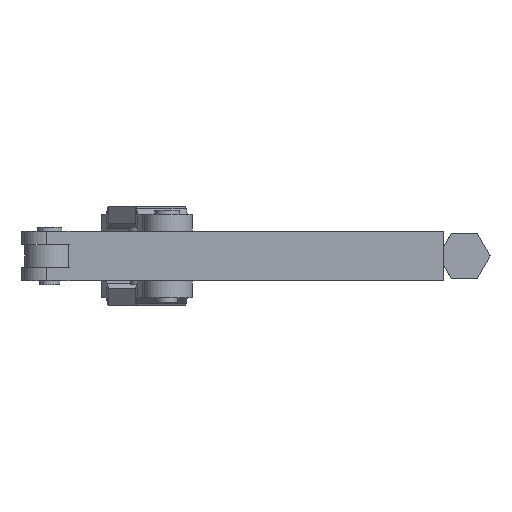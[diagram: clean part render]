
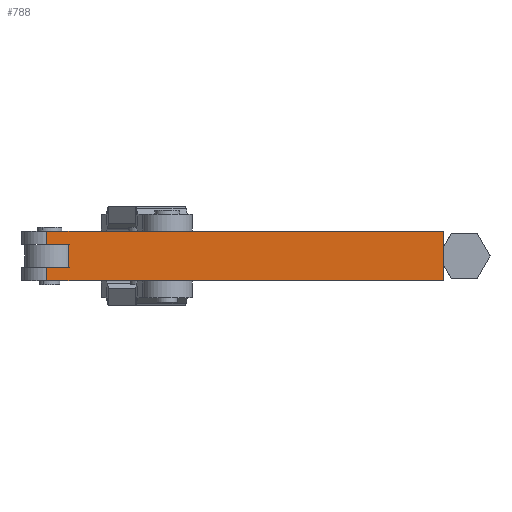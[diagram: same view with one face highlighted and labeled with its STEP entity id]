
A CAD part, front view. The second image highlights one B-rep face of the part: STEP entity #788.
In plain terms, the highlighted planar face has unit normal (0, -1, 0).
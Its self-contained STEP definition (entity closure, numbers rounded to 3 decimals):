
#386 = CARTESIAN_POINT ( 'NONE',  ( -9.525, -9.525, 9.525 ) ) ;
#390 = FACE_OUTER_BOUND ( 'NONE', #3882, .T. ) ;
#391 = PLANE ( 'NONE',  #5242 ) ;
#393 = DIRECTION ( 'NONE',  ( 0., 1., 0. ) ) ;
#394 = DIRECTION ( 'NONE',  ( -1., 0., 0. ) ) ;
#614 = LINE ( 'NONE', #625, #5062 ) ;
#615 = LINE ( 'NONE', #622, #4991 ) ;
#620 = LINE ( 'NONE', #628, #5095 ) ;
#622 = CARTESIAN_POINT ( 'NONE',  ( -17.7, -9.525, -4.5 ) ) ;
#623 = LINE ( 'NONE', #633, #5018 ) ;
#624 = DIRECTION ( 'NONE',  ( 1., 0., 0. ) ) ;
#625 = CARTESIAN_POINT ( 'NONE',  ( -17.7, -9.525, -4.5 ) ) ;
#626 = LINE ( 'NONE', #635, #5022 ) ;
#627 = DIRECTION ( 'NONE',  ( 0., 0., 1. ) ) ;
#628 = CARTESIAN_POINT ( 'NONE',  ( -17.7, -9.525, 4.5 ) ) ;
#629 = DIRECTION ( 'NONE',  ( 1., 0., 0. ) ) ;
#630 = LINE ( 'NONE', #631, #5034 ) ;
#631 = CARTESIAN_POINT ( 'NONE',  ( -9.525, -9.525, 9.525 ) ) ;
#632 = DIRECTION ( 'NONE',  ( 0., 0., -1. ) ) ;
#633 = CARTESIAN_POINT ( 'NONE',  ( -9.525, -9.525, 9.525 ) ) ;
#634 = DIRECTION ( 'NONE',  ( 1., 0., 0. ) ) ;
#635 = CARTESIAN_POINT ( 'NONE',  ( -161., -9.525, 9.525 ) ) ;
#636 = DIRECTION ( 'NONE',  ( 0., 0., -1. ) ) ;
#637 = LINE ( 'NONE', #638, #5038 ) ;
#638 = CARTESIAN_POINT ( 'NONE',  ( -9.525, -9.525, -9.525 ) ) ;
#639 = DIRECTION ( 'NONE',  ( 1., 0., 0. ) ) ;
#640 = LINE ( 'NONE', #641, #5096 ) ;
#641 = CARTESIAN_POINT ( 'NONE',  ( -9.525, -9.525, 9.525 ) ) ;
#642 = DIRECTION ( 'NONE',  ( 0., 0., -1. ) ) ;
#788 = ADVANCED_FACE ( 'NONE', ( #390 ), #391, .F. ) ;
#845 = EDGE_CURVE ( 'NONE', #4151, #4144, #615, .T. ) ;
#846 = EDGE_CURVE ( 'NONE', #4151, #4146, #614, .T. ) ;
#847 = EDGE_CURVE ( 'NONE', #4146, #2002, #620, .T. ) ;
#848 = EDGE_CURVE ( 'NONE', #4194, #2002, #630, .T. ) ;
#849 = EDGE_CURVE ( 'NONE', #4155, #4194, #623, .T. ) ;
#850 = EDGE_CURVE ( 'NONE', #4155, #4156, #626, .T. ) ;
#851 = EDGE_CURVE ( 'NONE', #4156, #4136, #637, .T. ) ;
#852 = EDGE_CURVE ( 'NONE', #4144, #4136, #640, .T. ) ;
#1667 = ORIENTED_EDGE ( 'NONE', *, *, #846, .T. ) ;
#1794 = ORIENTED_EDGE ( 'NONE', *, *, #848, .F. ) ;
#1820 = ORIENTED_EDGE ( 'NONE', *, *, #845, .F. ) ;
#1871 = ORIENTED_EDGE ( 'NONE', *, *, #852, .F. ) ;
#1878 = ORIENTED_EDGE ( 'NONE', *, *, #849, .F. ) ;
#1887 = ORIENTED_EDGE ( 'NONE', *, *, #850, .T. ) ;
#1903 = ORIENTED_EDGE ( 'NONE', *, *, #851, .T. ) ;
#1956 = ORIENTED_EDGE ( 'NONE', *, *, #847, .T. ) ;
#2002 = VERTEX_POINT ( 'NONE', #4835 ) ;
#3882 = EDGE_LOOP ( 'NONE', ( #1820, #1667, #1956, #1794, #1878, #1887, #1903, #1871 ) ) ;
#4136 = VERTEX_POINT ( 'NONE', #5949 ) ;
#4144 = VERTEX_POINT ( 'NONE', #5957 ) ;
#4146 = VERTEX_POINT ( 'NONE', #5959 ) ;
#4151 = VERTEX_POINT ( 'NONE', #5964 ) ;
#4155 = VERTEX_POINT ( 'NONE', #5968 ) ;
#4156 = VERTEX_POINT ( 'NONE', #5969 ) ;
#4194 = VERTEX_POINT ( 'NONE', #6007 ) ;
#4835 = CARTESIAN_POINT ( 'NONE',  ( -9.525, -9.525, 4.5 ) ) ;
#4991 = VECTOR ( 'NONE', #624, 1000. ) ;
#5018 = VECTOR ( 'NONE', #634, 1000. ) ;
#5022 = VECTOR ( 'NONE', #636, 1000. ) ;
#5034 = VECTOR ( 'NONE', #632, 1000. ) ;
#5038 = VECTOR ( 'NONE', #639, 1000. ) ;
#5062 = VECTOR ( 'NONE', #627, 1000. ) ;
#5095 = VECTOR ( 'NONE', #629, 1000. ) ;
#5096 = VECTOR ( 'NONE', #642, 1000. ) ;
#5242 = AXIS2_PLACEMENT_3D ( 'NONE', #386, #393, #394 ) ;
#5949 = CARTESIAN_POINT ( 'NONE',  ( -9.525, -9.525, -9.525 ) ) ;
#5957 = CARTESIAN_POINT ( 'NONE',  ( -9.525, -9.525, -4.5 ) ) ;
#5959 = CARTESIAN_POINT ( 'NONE',  ( -17.7, -9.525, 4.5 ) ) ;
#5964 = CARTESIAN_POINT ( 'NONE',  ( -17.7, -9.525, -4.5 ) ) ;
#5968 = CARTESIAN_POINT ( 'NONE',  ( -161., -9.525, 9.525 ) ) ;
#5969 = CARTESIAN_POINT ( 'NONE',  ( -161., -9.525, -9.525 ) ) ;
#6007 = CARTESIAN_POINT ( 'NONE',  ( -9.525, -9.525, 9.525 ) ) ;
